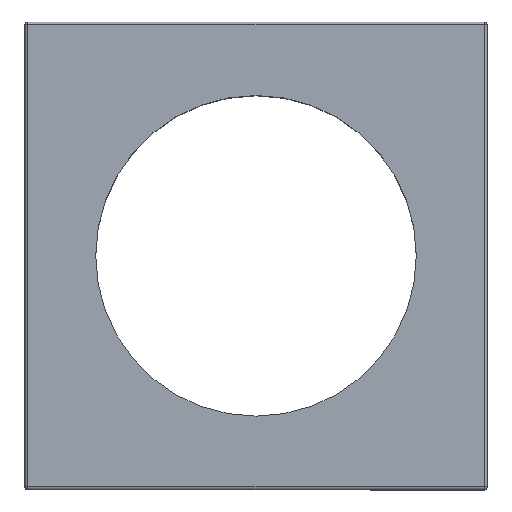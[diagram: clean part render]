
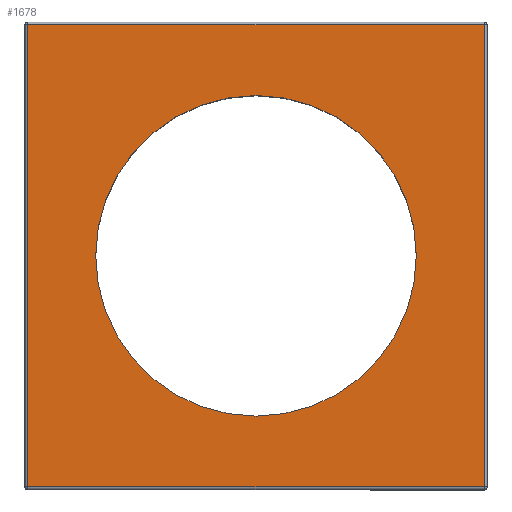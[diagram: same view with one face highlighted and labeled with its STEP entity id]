
A CAD part, top view. The second image highlights one B-rep face of the part: STEP entity #1678.
In plain terms, the highlighted planar face has unit normal (0, 0, 1).
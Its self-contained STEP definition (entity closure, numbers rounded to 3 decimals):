
#132 = VECTOR ( 'NONE', #4627, 1000. ) ;
#173 = EDGE_CURVE ( 'NONE', #6544, #5701, #1378, .T. ) ;
#196 = EDGE_CURVE ( 'NONE', #6511, #6544, #4056, .T. ) ;
#289 = CARTESIAN_POINT ( 'NONE',  ( 2268.742, -635.856, 0. ) ) ;
#328 = AXIS2_PLACEMENT_3D ( 'NONE', #5580, #3545, #4101 ) ;
#345 = VERTEX_POINT ( 'NONE', #4867 ) ;
#388 = LINE ( 'NONE', #2535, #132 ) ;
#414 = VERTEX_POINT ( 'NONE', #289 ) ;
#504 = DIRECTION ( 'NONE',  ( 1., 0., 0. ) ) ;
#782 = LINE ( 'NONE', #5332, #945 ) ;
#945 = VECTOR ( 'NONE', #3214, 1000. ) ;
#950 = CARTESIAN_POINT ( 'NONE',  ( 2283.142, -635.856, 0. ) ) ;
#1024 = AXIS2_PLACEMENT_3D ( 'NONE', #6646, #6666, #6132 ) ;
#1212 = VECTOR ( 'NONE', #504, 1000. ) ;
#1251 = EDGE_LOOP ( 'NONE', ( #5266, #5695 ) ) ;
#1378 = LINE ( 'NONE', #1537, #1212 ) ;
#1537 = CARTESIAN_POINT ( 'NONE',  ( 2283.142, -615.106, 0. ) ) ;
#1678 = ADVANCED_FACE ( 'NONE', ( #2351, #1692 ), #6110, .F. ) ;
#1692 = FACE_OUTER_BOUND ( 'NONE', #6466, .T. ) ;
#1833 = EDGE_CURVE ( 'NONE', #5701, #3250, #782, .T. ) ;
#1956 = ORIENTED_EDGE ( 'NONE', *, *, #2650, .F. ) ;
#2351 = FACE_BOUND ( 'NONE', #1251, .T. ) ;
#2535 = CARTESIAN_POINT ( 'NONE',  ( 2283.142, -656.606, 0. ) ) ;
#2585 = AXIS2_PLACEMENT_3D ( 'NONE', #950, #6792, #4145 ) ;
#2627 = VECTOR ( 'NONE', #5836, 1000. ) ;
#2630 = CARTESIAN_POINT ( 'NONE',  ( 2262.642, -615.106, 0. ) ) ;
#2650 = EDGE_CURVE ( 'NONE', #3250, #6511, #388, .T. ) ;
#3044 = EDGE_CURVE ( 'NONE', #414, #345, #6457, .T. ) ;
#3065 = CARTESIAN_POINT ( 'NONE',  ( 2303.642, -656.606, 0. ) ) ;
#3182 = EDGE_CURVE ( 'NONE', #345, #414, #4404, .T. ) ;
#3214 = DIRECTION ( 'NONE',  ( 0., -1., 0. ) ) ;
#3250 = VERTEX_POINT ( 'NONE', #3065 ) ;
#3409 = CARTESIAN_POINT ( 'NONE',  ( 2303.642, -615.106, 0. ) ) ;
#3545 = DIRECTION ( 'NONE',  ( 0., 0., -1. ) ) ;
#4056 = LINE ( 'NONE', #4180, #2627 ) ;
#4101 = DIRECTION ( 'NONE',  ( -1., 0., 0. ) ) ;
#4145 = DIRECTION ( 'NONE',  ( 1., 0., 0. ) ) ;
#4180 = CARTESIAN_POINT ( 'NONE',  ( 2262.642, -635.856, 0. ) ) ;
#4404 = CIRCLE ( 'NONE', #2585, 14.4 ) ;
#4443 = ORIENTED_EDGE ( 'NONE', *, *, #173, .F. ) ;
#4579 = ORIENTED_EDGE ( 'NONE', *, *, #1833, .F. ) ;
#4627 = DIRECTION ( 'NONE',  ( -1., 0., 0. ) ) ;
#4867 = CARTESIAN_POINT ( 'NONE',  ( 2297.542, -635.856, 0. ) ) ;
#5266 = ORIENTED_EDGE ( 'NONE', *, *, #3182, .F. ) ;
#5332 = CARTESIAN_POINT ( 'NONE',  ( 2303.642, -635.856, 0. ) ) ;
#5580 = CARTESIAN_POINT ( 'NONE',  ( 2283.142, -635.856, 0. ) ) ;
#5695 = ORIENTED_EDGE ( 'NONE', *, *, #3044, .F. ) ;
#5701 = VERTEX_POINT ( 'NONE', #3409 ) ;
#5815 = CARTESIAN_POINT ( 'NONE',  ( 2262.642, -656.606, 0. ) ) ;
#5836 = DIRECTION ( 'NONE',  ( 0., 1., 0. ) ) ;
#6072 = ORIENTED_EDGE ( 'NONE', *, *, #196, .F. ) ;
#6110 = PLANE ( 'NONE',  #328 ) ;
#6132 = DIRECTION ( 'NONE',  ( 1., 0., 0. ) ) ;
#6457 = CIRCLE ( 'NONE', #1024, 14.4 ) ;
#6466 = EDGE_LOOP ( 'NONE', ( #4579, #4443, #6072, #1956 ) ) ;
#6511 = VERTEX_POINT ( 'NONE', #5815 ) ;
#6544 = VERTEX_POINT ( 'NONE', #2630 ) ;
#6646 = CARTESIAN_POINT ( 'NONE',  ( 2283.142, -635.856, 0. ) ) ;
#6666 = DIRECTION ( 'NONE',  ( 0., 0., 1. ) ) ;
#6792 = DIRECTION ( 'NONE',  ( 0., 0., 1. ) ) ;
